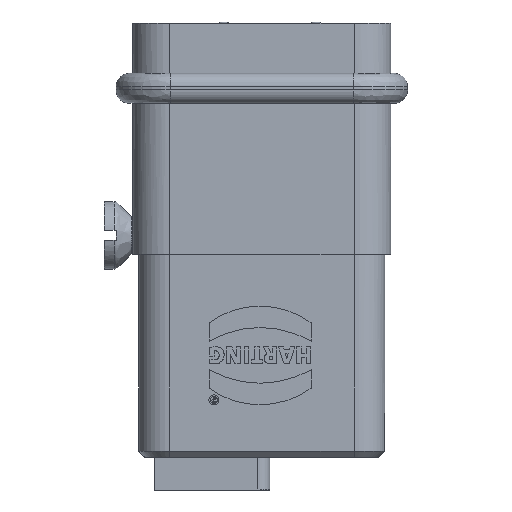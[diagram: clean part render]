
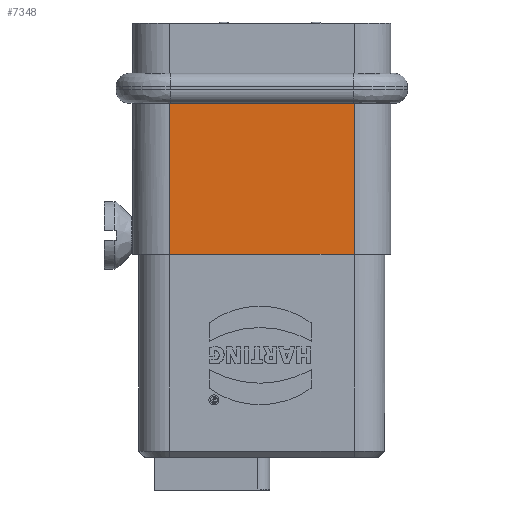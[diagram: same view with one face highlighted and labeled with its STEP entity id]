
A CAD part, front view. The second image highlights one B-rep face of the part: STEP entity #7348.
In plain terms, the highlighted planar face has unit normal (0, -1, 0).
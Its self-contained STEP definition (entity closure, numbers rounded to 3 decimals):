
#5601=PLANE('',#24906);
#6481=FACE_OUTER_BOUND('',#8697,.T.);
#7348=ADVANCED_FACE('',(#6481),#5601,.T.);
#8697=EDGE_LOOP('',(#12293,#12294,#12295,#12296,#12297,#12298));
#12293=ORIENTED_EDGE('',*,*,#16914,.F.);
#12294=ORIENTED_EDGE('',*,*,#17453,.T.);
#12295=ORIENTED_EDGE('',*,*,#17163,.T.);
#12296=ORIENTED_EDGE('',*,*,#17454,.T.);
#12297=ORIENTED_EDGE('',*,*,#17032,.F.);
#12298=ORIENTED_EDGE('',*,*,#17046,.F.);
#14990=VERTEX_POINT('',#34110);
#14991=VERTEX_POINT('',#34115);
#15064=VERTEX_POINT('',#34591);
#15065=VERTEX_POINT('',#34596);
#15125=VERTEX_POINT('',#34896);
#15126=VERTEX_POINT('',#34898);
#16914=EDGE_CURVE('',#14990,#14991,#18192,.T.);
#17032=EDGE_CURVE('',#15064,#15065,#18212,.T.);
#17046=EDGE_CURVE('',#14991,#15064,#20354,.T.);
#17163=EDGE_CURVE('',#15126,#15125,#20447,.T.);
#17453=EDGE_CURVE('',#14990,#15126,#20639,.T.);
#17454=EDGE_CURVE('',#15125,#15065,#20640,.T.);
#18192=B_SPLINE_CURVE_WITH_KNOTS('',3,(#34111,#34112,#34113,#34114),
 .UNSPECIFIED.,.F.,.F.,(4,4),(0.,1.),.UNSPECIFIED.);
#18212=B_SPLINE_CURVE_WITH_KNOTS('',3,(#34592,#34593,#34594,#34595),
 .UNSPECIFIED.,.F.,.F.,(4,4),(0.,1.),.UNSPECIFIED.);
#20354=LINE('',#34655,#22245);
#20447=LINE('',#34897,#22338);
#20639=LINE('',#35865,#22530);
#20640=LINE('',#35866,#22531);
#22245=VECTOR('',#27559,1.);
#22338=VECTOR('',#27812,1.);
#22530=VECTOR('',#28410,1.);
#22531=VECTOR('',#28411,1.);
#24906=AXIS2_PLACEMENT_3D('',#35867,#28412,#28413);
#27559=DIRECTION('',(1.,0.,0.));
#27812=DIRECTION('',(1.,0.,0.));
#28410=DIRECTION('',(0.,0.,-1.));
#28411=DIRECTION('',(0.,0.,1.));
#28412=DIRECTION('',(0.,-1.,0.));
#28413=DIRECTION('',(-1.,0.,0.));
#34110=CARTESIAN_POINT('',(-7.5,-10.5,10.731));
#34111=CARTESIAN_POINT('',(-7.5,-10.5,10.731));
#34112=CARTESIAN_POINT('',(-7.483,-10.5,10.731));
#34113=CARTESIAN_POINT('',(-7.467,-10.5,10.731));
#34114=CARTESIAN_POINT('',(-7.45,-10.5,10.731));
#34115=CARTESIAN_POINT('',(-7.45,-10.5,10.731));
#34591=CARTESIAN_POINT('',(7.45,-10.5,10.731));
#34592=CARTESIAN_POINT('',(7.45,-10.5,10.731));
#34593=CARTESIAN_POINT('',(7.467,-10.5,10.731));
#34594=CARTESIAN_POINT('',(7.483,-10.5,10.731));
#34595=CARTESIAN_POINT('',(7.5,-10.5,10.731));
#34596=CARTESIAN_POINT('',(7.5,-10.5,10.731));
#34655=CARTESIAN_POINT('',(0.,-10.5,10.731));
#34896=CARTESIAN_POINT('',(7.5,-10.5,-1.55));
#34897=CARTESIAN_POINT('',(-7.5,-10.5,-1.55));
#34898=CARTESIAN_POINT('',(-7.5,-10.5,-1.55));
#35865=CARTESIAN_POINT('',(-7.5,-10.5,10.97));
#35866=CARTESIAN_POINT('',(7.5,-10.5,-1.55));
#35867=CARTESIAN_POINT('',(7.5,-10.5,17.25));
